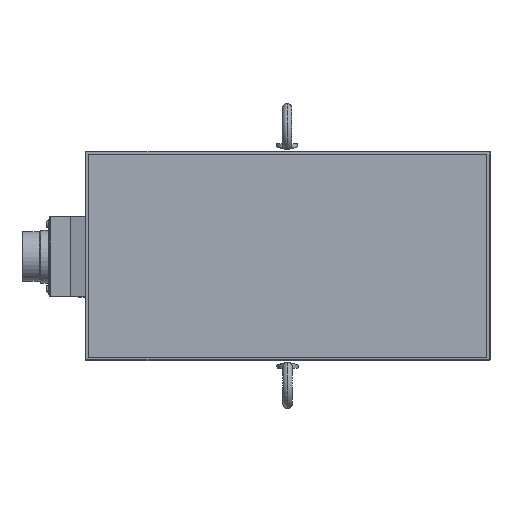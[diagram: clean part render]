
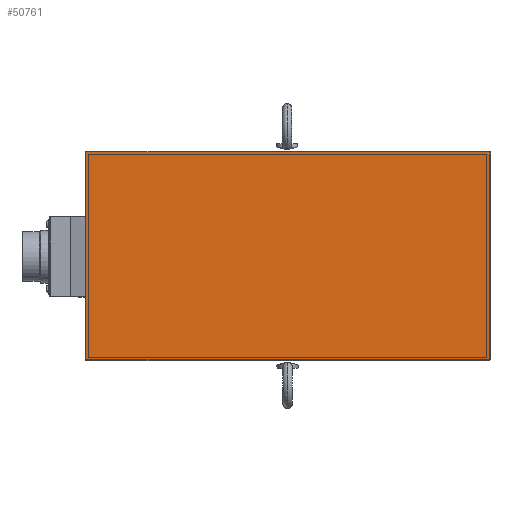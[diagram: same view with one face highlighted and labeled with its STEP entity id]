
A CAD part, top view. The second image highlights one B-rep face of the part: STEP entity #50761.
In plain terms, the highlighted planar face has unit normal (0, 0, 1).
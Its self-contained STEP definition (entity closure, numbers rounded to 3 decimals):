
#50722=CARTESIAN_POINT('',(-72.5,65.,568.));
#50723=DIRECTION('',(0.,1.,0.));
#50724=DIRECTION('',(0.,-0.,1.));
#50725=AXIS2_PLACEMENT_3D('',#50722,#50724,#50723);
#50726=PLANE('',#50725);
#50727=CARTESIAN_POINT('',(-206.5,-69.,568.));
#50728=VERTEX_POINT('',#50727);
#50729=CARTESIAN_POINT('',(61.5,-69.,568.));
#50730=VERTEX_POINT('',#50729);
#50731=CARTESIAN_POINT('',(-206.5,-69.,568.));
#50732=DIRECTION('',(1.,0.,0.));
#50733=VECTOR('',#50732,268.);
#50734=LINE('',#50731,#50733);
#50735=EDGE_CURVE('',#50728,#50730,#50734,.T.);
#50736=ORIENTED_EDGE('E7594',*,*,#50735,.T.);
#50737=CARTESIAN_POINT('',(61.5,69.,568.));
#50738=VERTEX_POINT('',#50737);
#50739=CARTESIAN_POINT('',(61.5,-69.,568.));
#50740=DIRECTION('',(0.,1.,0.));
#50741=VECTOR('',#50740,138.);
#50742=LINE('',#50739,#50741);
#50743=EDGE_CURVE('',#50730,#50738,#50742,.T.);
#50744=ORIENTED_EDGE('E7595',*,*,#50743,.T.);
#50745=CARTESIAN_POINT('',(-206.5,69.,568.));
#50746=VERTEX_POINT('',#50745);
#50747=CARTESIAN_POINT('',(61.5,69.,568.));
#50748=DIRECTION('',(-1.,0.,0.));
#50749=VECTOR('',#50748,268.);
#50750=LINE('',#50747,#50749);
#50751=EDGE_CURVE('',#50738,#50746,#50750,.T.);
#50752=ORIENTED_EDGE('E7596',*,*,#50751,.T.);
#50753=CARTESIAN_POINT('',(-206.5,69.,568.));
#50754=DIRECTION('',(0.,-1.,0.));
#50755=VECTOR('',#50754,138.);
#50756=LINE('',#50753,#50755);
#50757=EDGE_CURVE('',#50746,#50728,#50756,.T.);
#50758=ORIENTED_EDGE('E7597',*,*,#50757,.T.);
#50759=EDGE_LOOP('',(#50736,#50744,#50752,#50758));
#50760=FACE_OUTER_BOUND('',#50759,.T.);
#50761=ADVANCED_FACE('F2950',(#50760),#50726,.T.);
